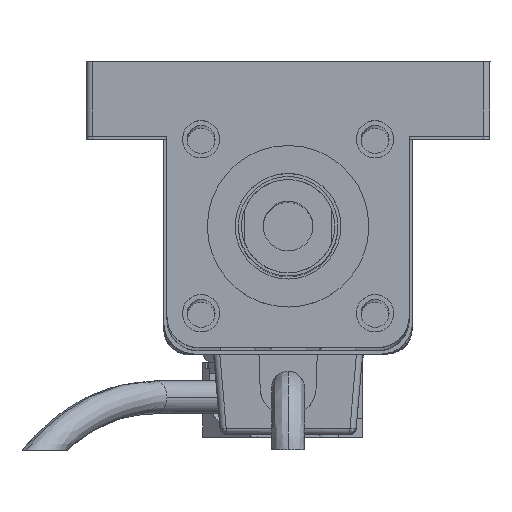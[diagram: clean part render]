
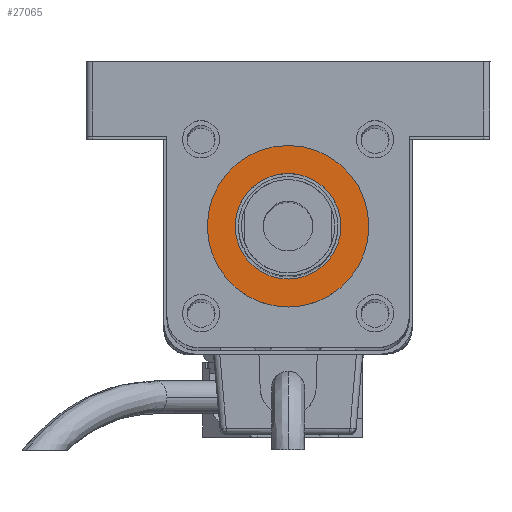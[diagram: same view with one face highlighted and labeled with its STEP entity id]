
A CAD part, top view. The second image highlights one B-rep face of the part: STEP entity #27065.
In plain terms, the highlighted planar face has unit normal (0, 0, 1) as drawn and (0, 0, -1) by its records, which use the part's own axes.
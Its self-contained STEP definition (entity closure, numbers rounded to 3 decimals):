
#364 = VERTEX_POINT ( 'NONE', #18096 ) ;
#604 = ORIENTED_EDGE ( 'NONE', *, *, #4591, .F. ) ;
#1053 = CIRCLE ( 'NONE', #8638, 8.5 ) ;
#2756 = FACE_OUTER_BOUND ( 'NONE', #27113, .T. ) ;
#4591 = EDGE_CURVE ( 'NONE', #20739, #364, #9935, .T. ) ;
#4738 = PLANE ( 'NONE',  #11087 ) ;
#4933 = DIRECTION ( 'NONE',  ( 0., 0., -1. ) ) ;
#5225 = CARTESIAN_POINT ( 'NONE',  ( 6.5, -19.5, -3. ) ) ;
#5255 = DIRECTION ( 'NONE',  ( 0., 0., -1. ) ) ;
#6360 = AXIS2_PLACEMENT_3D ( 'NONE', #11757, #5255, #25110 ) ;
#6899 = CARTESIAN_POINT ( 'NONE',  ( 11., -19.5, -3. ) ) ;
#6914 = CIRCLE ( 'NONE', #26459, 13. ) ;
#7654 = CARTESIAN_POINT ( 'NONE',  ( 19.5, -19.5, -3. ) ) ;
#8638 = AXIS2_PLACEMENT_3D ( 'NONE', #9336, #20363, #18299 ) ;
#9336 = CARTESIAN_POINT ( 'NONE',  ( 19.5, -19.5, -3. ) ) ;
#9353 = ORIENTED_EDGE ( 'NONE', *, *, #28012, .T. ) ;
#9416 = FACE_BOUND ( 'NONE', #16016, .T. ) ;
#9426 = DIRECTION ( 'NONE',  ( -1., 0., 0. ) ) ;
#9935 = CIRCLE ( 'NONE', #22647, 8.5 ) ;
#10717 = DIRECTION ( 'NONE',  ( -1., 0., 0. ) ) ;
#11087 = AXIS2_PLACEMENT_3D ( 'NONE', #18390, #4933, #9426 ) ;
#11757 = CARTESIAN_POINT ( 'NONE',  ( 19.5, -19.5, -3. ) ) ;
#11951 = CARTESIAN_POINT ( 'NONE',  ( 32.5, -19.5, -3. ) ) ;
#15357 = VERTEX_POINT ( 'NONE', #5225 ) ;
#16016 = EDGE_LOOP ( 'NONE', ( #604, #25460 ) ) ;
#18096 = CARTESIAN_POINT ( 'NONE',  ( 28., -19.5, -3. ) ) ;
#18299 = DIRECTION ( 'NONE',  ( -1., 0., 0. ) ) ;
#18390 = CARTESIAN_POINT ( 'NONE',  ( 19.5, -19.5, -3. ) ) ;
#20363 = DIRECTION ( 'NONE',  ( 0., 0., -1. ) ) ;
#20739 = VERTEX_POINT ( 'NONE', #6899 ) ;
#20962 = DIRECTION ( 'NONE',  ( -1., 0., 0. ) ) ;
#22065 = ORIENTED_EDGE ( 'NONE', *, *, #24689, .T. ) ;
#22128 = DIRECTION ( 'NONE',  ( 0., 0., -1. ) ) ;
#22647 = AXIS2_PLACEMENT_3D ( 'NONE', #24203, #22128, #10717 ) ;
#24076 = CIRCLE ( 'NONE', #6360, 13. ) ;
#24203 = CARTESIAN_POINT ( 'NONE',  ( 19.5, -19.5, -3. ) ) ;
#24689 = EDGE_CURVE ( 'NONE', #15357, #24792, #24076, .T. ) ;
#24792 = VERTEX_POINT ( 'NONE', #11951 ) ;
#25110 = DIRECTION ( 'NONE',  ( -1., 0., 0. ) ) ;
#25460 = ORIENTED_EDGE ( 'NONE', *, *, #25687, .F. ) ;
#25687 = EDGE_CURVE ( 'NONE', #364, #20739, #1053, .T. ) ;
#26459 = AXIS2_PLACEMENT_3D ( 'NONE', #7654, #27839, #20962 ) ;
#27065 = ADVANCED_FACE ( 'NONE', ( #9416, #2756 ), #4738, .T. ) ;
#27113 = EDGE_LOOP ( 'NONE', ( #9353, #22065 ) ) ;
#27839 = DIRECTION ( 'NONE',  ( 0., 0., -1. ) ) ;
#28012 = EDGE_CURVE ( 'NONE', #24792, #15357, #6914, .T. ) ;
